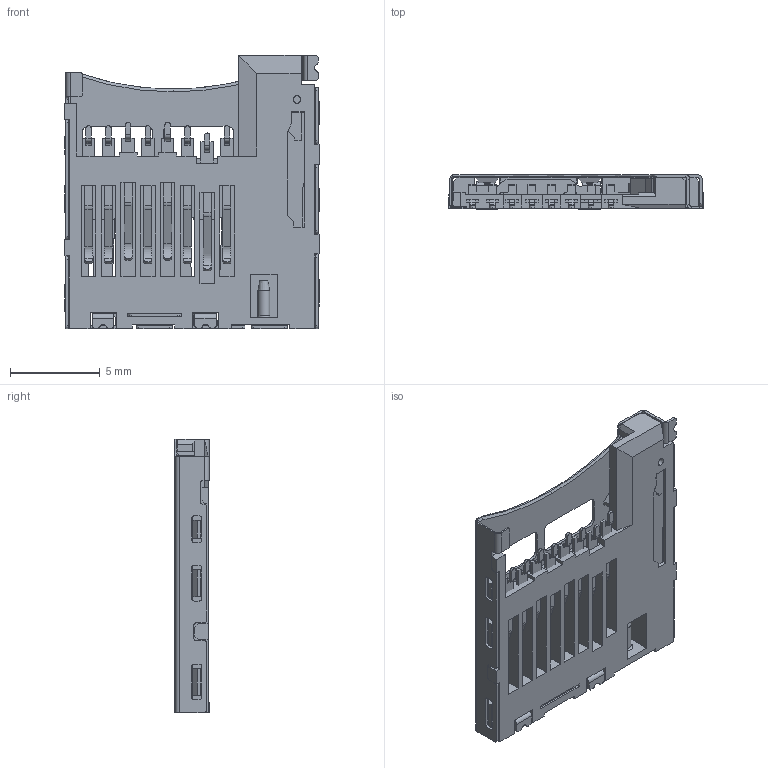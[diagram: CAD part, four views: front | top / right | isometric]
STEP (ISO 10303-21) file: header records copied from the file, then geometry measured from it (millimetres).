
FILE_DESCRIPTION((''),'2;1');
FILE_NAME('TF-CARD-P-P-__-___ASM','2022-11-15T',('Administrator'),(''),'PRO/ENGINEER BY PARAMETRIC TECHNOLOGY CORPORATION, 2009440','PRO/ENGINEER BY PARAMETRIC TECHNOLOGY CORPORATION, 2009440','');
FILE_SCHEMA(('CONFIG_CONTROL_DESIGN'));
Length unit declared in the file: millimetre
Products named in the file (8): H-B; T; T1; T2; SHELL-B; H-H; J-C; TF-CARD-P-P-__-___ASM
Assembly tree (8 placements, depth 2):
  TF-CARD-P-P-__-___ASM
    H-B
    T
    T1
    T2  x2
    SHELL-B
    H-H
    J-C
Bounding box: 14.15 x 1.9 x 15.2 mm (x, y, z)
Volume: 93.1 mm3; surface area: 1079.2 mm2
Topology: 3 solids, 8 shells, 1286 faces, 3435 edges, 2134 vertices
Faces by surface type: plane 849, cylinder 398, torus 18, cone 11, bspline 10
Entity records: 38265 total; most frequent: CARTESIAN_POINT 7060, ORIENTED_EDGE 6516, DIRECTION 6469, EDGE_CURVE 3284, VECTOR 2443, LINE 2443, VERTEX_POINT 2046, AXIS2_PLACEMENT_3D 2013
